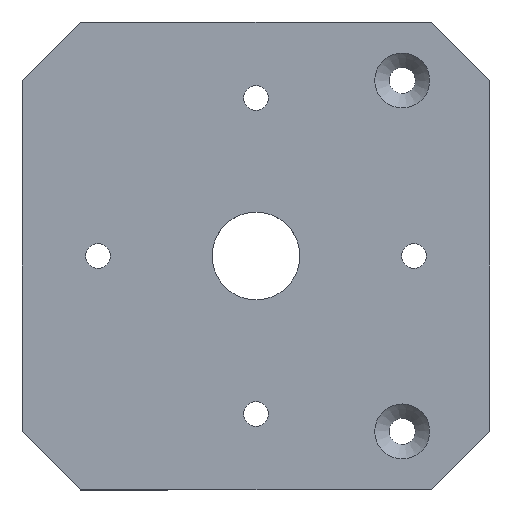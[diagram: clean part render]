
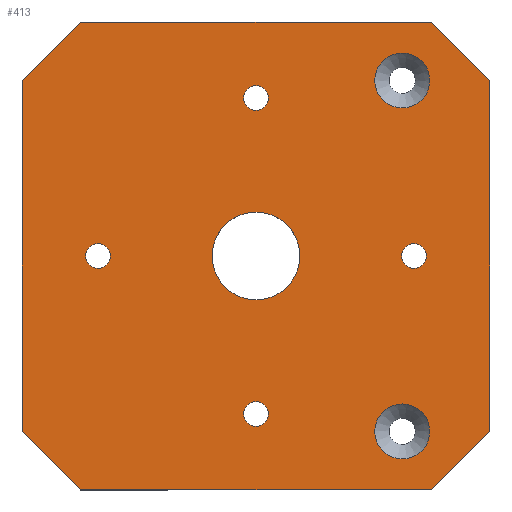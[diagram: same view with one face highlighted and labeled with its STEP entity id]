
A CAD part, top view. The second image highlights one B-rep face of the part: STEP entity #413.
In plain terms, the highlighted planar face has unit normal (0, 0, 1).
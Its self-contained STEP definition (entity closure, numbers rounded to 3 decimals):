
#1 = CARTESIAN_POINT ( 'NONE',  ( 2.1, -27., 5. ) ) ;
#2 = FACE_BOUND ( 'NONE', #287, .T. ) ;
#3 = VERTEX_POINT ( 'NONE', #1 ) ;
#7 = CARTESIAN_POINT ( 'NONE',  ( -40., 30., 5. ) ) ;
#14 = VECTOR ( 'NONE', #188, 1000. ) ;
#19 = DIRECTION ( 'NONE',  ( 0.707, -0.707, 0. ) ) ;
#20 = DIRECTION ( 'NONE',  ( 0., 0., 1. ) ) ;
#22 = VERTEX_POINT ( 'NONE', #145 ) ;
#25 = EDGE_CURVE ( 'NONE', #161, #161, #514, .T. ) ;
#32 = CIRCLE ( 'NONE', #419, 4.7 ) ;
#34 = ORIENTED_EDGE ( 'NONE', *, *, #322, .T. ) ;
#40 = ORIENTED_EDGE ( 'NONE', *, *, #244, .T. ) ;
#42 = EDGE_LOOP ( 'NONE', ( #34, #142, #585, #281, #91, #40, #193, #240 ) ) ;
#44 = CIRCLE ( 'NONE', #522, 7.5 ) ;
#45 = ORIENTED_EDGE ( 'NONE', *, *, #25, .F. ) ;
#46 = DIRECTION ( 'NONE',  ( 1., 0., 0. ) ) ;
#49 = ORIENTED_EDGE ( 'NONE', *, *, #57, .F. ) ;
#57 = EDGE_CURVE ( 'NONE', #3, #3, #311, .T. ) ;
#60 = CARTESIAN_POINT ( 'NONE',  ( 30., 40., 5. ) ) ;
#61 = DIRECTION ( 'NONE',  ( -0.707, 0.707, 0. ) ) ;
#68 = CARTESIAN_POINT ( 'NONE',  ( 5., 75., 5. ) ) ;
#70 = VECTOR ( 'NONE', #349, 1000. ) ;
#77 = DIRECTION ( 'NONE',  ( 1., 0., 0. ) ) ;
#86 = CARTESIAN_POINT ( 'NONE',  ( 0., 0., 5. ) ) ;
#91 = ORIENTED_EDGE ( 'NONE', *, *, #283, .T. ) ;
#100 = FACE_OUTER_BOUND ( 'NONE', #42, .T. ) ;
#103 = DIRECTION ( 'NONE',  ( -1., 0., 0. ) ) ;
#107 = VERTEX_POINT ( 'NONE', #520 ) ;
#109 = VERTEX_POINT ( 'NONE', #199 ) ;
#110 = VERTEX_POINT ( 'NONE', #418 ) ;
#116 = VECTOR ( 'NONE', #103, 1000. ) ;
#121 = CARTESIAN_POINT ( 'NONE',  ( 30., -40., 5. ) ) ;
#126 = LINE ( 'NONE', #68, #70 ) ;
#133 = FACE_BOUND ( 'NONE', #387, .T. ) ;
#134 = VERTEX_POINT ( 'NONE', #60 ) ;
#141 = VERTEX_POINT ( 'NONE', #7 ) ;
#142 = ORIENTED_EDGE ( 'NONE', *, *, #350, .T. ) ;
#145 = CARTESIAN_POINT ( 'NONE',  ( -40., -30., 5. ) ) ;
#146 = VECTOR ( 'NONE', #386, 1000. ) ;
#151 = FACE_BOUND ( 'NONE', #368, .T. ) ;
#161 = VERTEX_POINT ( 'NONE', #200 ) ;
#162 = VECTOR ( 'NONE', #19, 1000. ) ;
#163 = CARTESIAN_POINT ( 'NONE',  ( 40., 30., 5. ) ) ;
#167 = LINE ( 'NONE', #327, #515 ) ;
#173 = DIRECTION ( 'NONE',  ( 0., 0., 1. ) ) ;
#176 = DIRECTION ( 'NONE',  ( 1., 0., 0. ) ) ;
#184 = AXIS2_PLACEMENT_3D ( 'NONE', #263, #173, #582 ) ;
#187 = CARTESIAN_POINT ( 'NONE',  ( 0., -27., 5. ) ) ;
#188 = DIRECTION ( 'NONE',  ( 0., -1., 0. ) ) ;
#193 = ORIENTED_EDGE ( 'NONE', *, *, #465, .T. ) ;
#195 = EDGE_CURVE ( 'NONE', #540, #316, #296, .T. ) ;
#196 = CIRCLE ( 'NONE', #282, 2.1 ) ;
#199 = CARTESIAN_POINT ( 'NONE',  ( 29.7, 30., 5. ) ) ;
#200 = CARTESIAN_POINT ( 'NONE',  ( 29.1, 0., 5. ) ) ;
#206 = LINE ( 'NONE', #562, #222 ) ;
#216 = DIRECTION ( 'NONE',  ( 1., 0., 0. ) ) ;
#222 = VECTOR ( 'NONE', #61, 1000. ) ;
#233 = LINE ( 'NONE', #408, #14 ) ;
#237 = ORIENTED_EDGE ( 'NONE', *, *, #250, .F. ) ;
#240 = ORIENTED_EDGE ( 'NONE', *, *, #489, .T. ) ;
#241 = AXIS2_PLACEMENT_3D ( 'NONE', #317, #394, #348 ) ;
#244 = EDGE_CURVE ( 'NONE', #274, #134, #206, .T. ) ;
#246 = VECTOR ( 'NONE', #560, 1000. ) ;
#249 = DIRECTION ( 'NONE',  ( 0., 0., 1. ) ) ;
#250 = EDGE_CURVE ( 'NONE', #469, #469, #32, .T. ) ;
#256 = VERTEX_POINT ( 'NONE', #565 ) ;
#263 = CARTESIAN_POINT ( 'NONE',  ( 25., 30., 5. ) ) ;
#274 = VERTEX_POINT ( 'NONE', #163 ) ;
#278 = CARTESIAN_POINT ( 'NONE',  ( 40., -30., 5. ) ) ;
#280 = AXIS2_PLACEMENT_3D ( 'NONE', #187, #449, #442 ) ;
#281 = ORIENTED_EDGE ( 'NONE', *, *, #195, .T. ) ;
#282 = AXIS2_PLACEMENT_3D ( 'NONE', #433, #249, #424 ) ;
#283 = EDGE_CURVE ( 'NONE', #316, #274, #337, .T. ) ;
#284 = PLANE ( 'NONE',  #319 ) ;
#287 = EDGE_LOOP ( 'NONE', ( #358 ) ) ;
#292 = FACE_BOUND ( 'NONE', #415, .T. ) ;
#294 = CARTESIAN_POINT ( 'NONE',  ( 7.5, 0., 5. ) ) ;
#296 = LINE ( 'NONE', #376, #246 ) ;
#305 = CARTESIAN_POINT ( 'NONE',  ( 25., -30., 5. ) ) ;
#307 = CARTESIAN_POINT ( 'NONE',  ( 0., 27., 5. ) ) ;
#311 = CIRCLE ( 'NONE', #280, 2.1 ) ;
#316 = VERTEX_POINT ( 'NONE', #278 ) ;
#317 = CARTESIAN_POINT ( 'NONE',  ( 27., 0., 5. ) ) ;
#319 = AXIS2_PLACEMENT_3D ( 'NONE', #594, #461, #46 ) ;
#322 = EDGE_CURVE ( 'NONE', #141, #22, #233, .T. ) ;
#327 = CARTESIAN_POINT ( 'NONE',  ( 40., -40., 5. ) ) ;
#331 = CIRCLE ( 'NONE', #184, 4.7 ) ;
#333 = VERTEX_POINT ( 'NONE', #294 ) ;
#337 = LINE ( 'NONE', #527, #146 ) ;
#340 = CARTESIAN_POINT ( 'NONE',  ( -35., -35., 5. ) ) ;
#348 = DIRECTION ( 'NONE',  ( 1., 0., 0. ) ) ;
#349 = DIRECTION ( 'NONE',  ( -0.707, -0.707, 0. ) ) ;
#350 = EDGE_CURVE ( 'NONE', #22, #107, #385, .T. ) ;
#358 = ORIENTED_EDGE ( 'NONE', *, *, #494, .F. ) ;
#363 = LINE ( 'NONE', #510, #116 ) ;
#368 = EDGE_LOOP ( 'NONE', ( #237 ) ) ;
#376 = CARTESIAN_POINT ( 'NONE',  ( 75., 5., 5. ) ) ;
#377 = CARTESIAN_POINT ( 'NONE',  ( 2.1, 27., 5. ) ) ;
#385 = LINE ( 'NONE', #340, #162 ) ;
#386 = DIRECTION ( 'NONE',  ( 0., 1., 0. ) ) ;
#387 = EDGE_LOOP ( 'NONE', ( #49 ) ) ;
#394 = DIRECTION ( 'NONE',  ( 0., 0., 1. ) ) ;
#398 = EDGE_LOOP ( 'NONE', ( #464 ) ) ;
#405 = EDGE_CURVE ( 'NONE', #333, #333, #44, .T. ) ;
#406 = CIRCLE ( 'NONE', #496, 2.1 ) ;
#407 = ORIENTED_EDGE ( 'NONE', *, *, #492, .F. ) ;
#408 = CARTESIAN_POINT ( 'NONE',  ( -40., -40., 5. ) ) ;
#409 = ORIENTED_EDGE ( 'NONE', *, *, #427, .F. ) ;
#413 = ADVANCED_FACE ( 'NONE', ( #133, #572, #292, #552, #597, #151, #2, #100 ), #284, .T. ) ;
#415 = EDGE_LOOP ( 'NONE', ( #409 ) ) ;
#418 = CARTESIAN_POINT ( 'NONE',  ( -24.9, 0., 5. ) ) ;
#419 = AXIS2_PLACEMENT_3D ( 'NONE', #305, #20, #216 ) ;
#424 = DIRECTION ( 'NONE',  ( 1., 0., 0. ) ) ;
#427 = EDGE_CURVE ( 'NONE', #559, #559, #406, .T. ) ;
#433 = CARTESIAN_POINT ( 'NONE',  ( -27., 0., 5. ) ) ;
#442 = DIRECTION ( 'NONE',  ( 1., 0., 0. ) ) ;
#448 = EDGE_LOOP ( 'NONE', ( #407 ) ) ;
#449 = DIRECTION ( 'NONE',  ( 0., 0., 1. ) ) ;
#461 = DIRECTION ( 'NONE',  ( 0., 0., 1. ) ) ;
#464 = ORIENTED_EDGE ( 'NONE', *, *, #405, .F. ) ;
#465 = EDGE_CURVE ( 'NONE', #134, #256, #363, .T. ) ;
#469 = VERTEX_POINT ( 'NONE', #555 ) ;
#473 = DIRECTION ( 'NONE',  ( 1., 0., 0. ) ) ;
#486 = DIRECTION ( 'NONE',  ( 0., 0., 1. ) ) ;
#489 = EDGE_CURVE ( 'NONE', #256, #141, #126, .T. ) ;
#492 = EDGE_CURVE ( 'NONE', #110, #110, #196, .T. ) ;
#493 = EDGE_LOOP ( 'NONE', ( #45 ) ) ;
#494 = EDGE_CURVE ( 'NONE', #109, #109, #331, .T. ) ;
#496 = AXIS2_PLACEMENT_3D ( 'NONE', #307, #486, #77 ) ;
#510 = CARTESIAN_POINT ( 'NONE',  ( 40., 40., 5. ) ) ;
#514 = CIRCLE ( 'NONE', #241, 2.1 ) ;
#515 = VECTOR ( 'NONE', #473, 1000. ) ;
#520 = CARTESIAN_POINT ( 'NONE',  ( -30., -40., 5. ) ) ;
#522 = AXIS2_PLACEMENT_3D ( 'NONE', #86, #577, #176 ) ;
#527 = CARTESIAN_POINT ( 'NONE',  ( 40., -40., 5. ) ) ;
#540 = VERTEX_POINT ( 'NONE', #121 ) ;
#552 = FACE_BOUND ( 'NONE', #493, .T. ) ;
#555 = CARTESIAN_POINT ( 'NONE',  ( 29.7, -30., 5. ) ) ;
#558 = EDGE_CURVE ( 'NONE', #107, #540, #167, .T. ) ;
#559 = VERTEX_POINT ( 'NONE', #377 ) ;
#560 = DIRECTION ( 'NONE',  ( 0.707, 0.707, 0. ) ) ;
#562 = CARTESIAN_POINT ( 'NONE',  ( 35., 35., 5. ) ) ;
#565 = CARTESIAN_POINT ( 'NONE',  ( -30., 40., 5. ) ) ;
#572 = FACE_BOUND ( 'NONE', #448, .T. ) ;
#577 = DIRECTION ( 'NONE',  ( 0., 0., 1. ) ) ;
#582 = DIRECTION ( 'NONE',  ( 1., 0., 0. ) ) ;
#585 = ORIENTED_EDGE ( 'NONE', *, *, #558, .T. ) ;
#594 = CARTESIAN_POINT ( 'NONE',  ( 40., 40., 5. ) ) ;
#597 = FACE_BOUND ( 'NONE', #398, .T. ) ;
